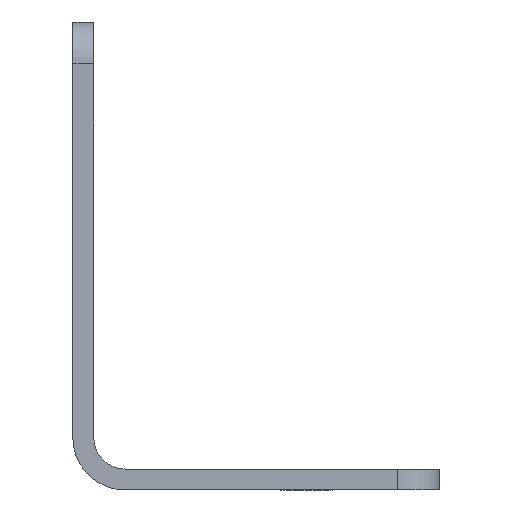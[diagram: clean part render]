
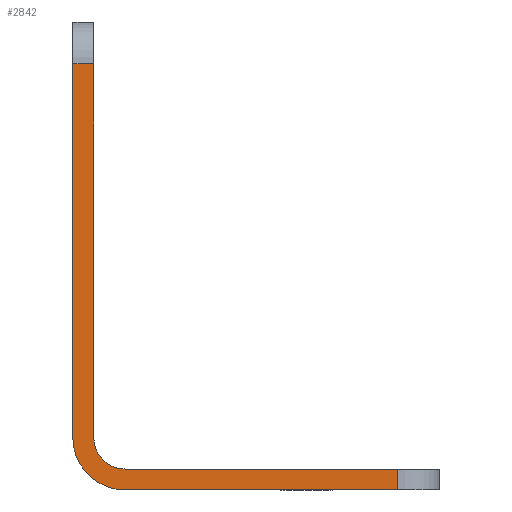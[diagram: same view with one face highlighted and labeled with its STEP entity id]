
A CAD part, front view. The second image highlights one B-rep face of the part: STEP entity #2842.
In plain terms, the highlighted planar face has unit normal (0, -1, 0).
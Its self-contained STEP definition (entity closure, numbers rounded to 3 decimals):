
#151=PLANE('',#3119);
#288=FACE_OUTER_BOUND('',#494,.T.);
#494=EDGE_LOOP('',(#2629,#2630,#2631,#2632,#2633,#2634,#2635,#2636));
#735=LINE('',#4677,#999);
#740=LINE('',#4689,#1004);
#750=LINE('',#4723,#1014);
#754=LINE('',#4732,#1018);
#757=LINE('',#4740,#1021);
#758=LINE('',#4744,#1022);
#999=VECTOR('',#3864,2.);
#1004=VECTOR('',#3875,26.);
#1014=VECTOR('',#3907,35.7);
#1018=VECTOR('',#3917,2.);
#1021=VECTOR('',#3926,26.);
#1022=VECTOR('',#3933,35.7);
#1159=CIRCLE('',#3114,5.);
#1160=CIRCLE('',#3117,3.);
#1408=VERTEX_POINT('',#4674);
#1409=VERTEX_POINT('',#4676);
#1413=VERTEX_POINT('',#4688);
#1425=VERTEX_POINT('',#4720);
#1426=VERTEX_POINT('',#4722);
#1428=VERTEX_POINT('',#4730);
#1429=VERTEX_POINT('',#4734);
#1430=VERTEX_POINT('',#4738);
#1798=EDGE_CURVE('',#1408,#1409,#735,.T.);
#1804=EDGE_CURVE('',#1413,#1409,#740,.T.);
#1821=EDGE_CURVE('',#1426,#1425,#750,.T.);
#1826=EDGE_CURVE('',#1428,#1425,#754,.T.);
#1827=EDGE_CURVE('',#1429,#1413,#1159,.T.);
#1830=EDGE_CURVE('',#1408,#1430,#757,.T.);
#1831=EDGE_CURVE('',#1430,#1426,#1160,.T.);
#1832=EDGE_CURVE('',#1428,#1429,#758,.T.);
#2629=ORIENTED_EDGE('',*,*,#1798,.F.);
#2630=ORIENTED_EDGE('',*,*,#1830,.T.);
#2631=ORIENTED_EDGE('',*,*,#1831,.T.);
#2632=ORIENTED_EDGE('',*,*,#1821,.T.);
#2633=ORIENTED_EDGE('',*,*,#1826,.F.);
#2634=ORIENTED_EDGE('',*,*,#1832,.T.);
#2635=ORIENTED_EDGE('',*,*,#1827,.T.);
#2636=ORIENTED_EDGE('',*,*,#1804,.T.);
#2842=ADVANCED_FACE('',(#288),#151,.F.);
#3114=AXIS2_PLACEMENT_3D('',#4735,#3920,#3921);
#3117=AXIS2_PLACEMENT_3D('',#4742,#3929,#3930);
#3119=AXIS2_PLACEMENT_3D('',#4745,#3934,#3935);
#3864=DIRECTION('',(0.,0.,-1.));
#3875=DIRECTION('',(1.,0.,0.));
#3907=DIRECTION('',(0.,0.,1.));
#3917=DIRECTION('',(1.,0.,0.));
#3920=DIRECTION('center_axis',(0.,-1.,0.));
#3921=DIRECTION('ref_axis',(0.,0.,1.));
#3926=DIRECTION('',(-1.,0.,0.));
#3929=DIRECTION('center_axis',(0.,1.,0.));
#3930=DIRECTION('ref_axis',(0.,0.,-1.));
#3933=DIRECTION('',(0.,0.,-1.));
#3934=DIRECTION('center_axis',(0.,1.,0.));
#3935=DIRECTION('ref_axis',(0.,0.,1.));
#4674=CARTESIAN_POINT('',(31.,0.,2.));
#4676=CARTESIAN_POINT('',(31.,0.,0.));
#4677=CARTESIAN_POINT('',(31.,0.,8.021));
#4688=CARTESIAN_POINT('',(5.,0.,0.));
#4689=CARTESIAN_POINT('',(5.,0.,0.));
#4720=CARTESIAN_POINT('',(2.,0.,40.7));
#4722=CARTESIAN_POINT('',(2.,0.,5.));
#4723=CARTESIAN_POINT('',(2.,0.,5.));
#4730=CARTESIAN_POINT('',(0.,0.,40.7));
#4732=CARTESIAN_POINT('',(4.492,0.,40.7));
#4734=CARTESIAN_POINT('',(0.,0.,5.));
#4735=CARTESIAN_POINT('Origin',(5.,0.,5.));
#4738=CARTESIAN_POINT('',(5.,0.,2.));
#4740=CARTESIAN_POINT('',(35.,0.,2.));
#4742=CARTESIAN_POINT('Origin',(5.,0.,5.));
#4744=CARTESIAN_POINT('',(0.,0.,44.7));
#4745=CARTESIAN_POINT('Origin',(8.984,0.,14.043));
